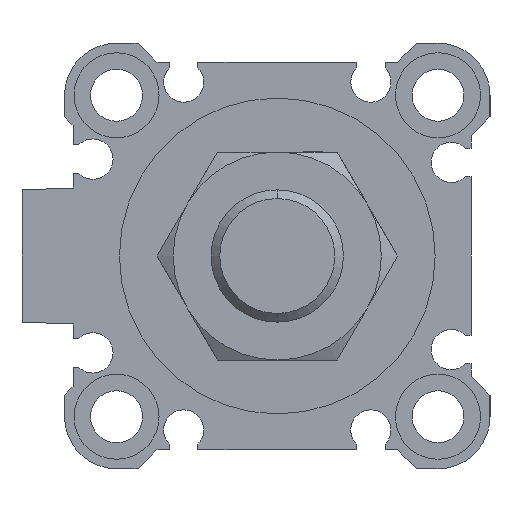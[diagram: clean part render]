
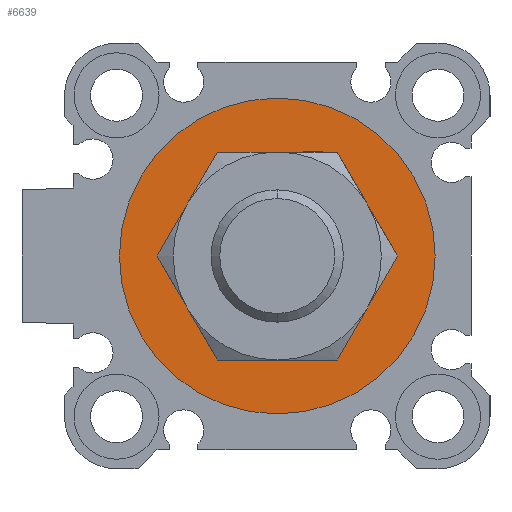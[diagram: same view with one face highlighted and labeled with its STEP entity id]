
A CAD part, left-side view. The second image highlights one B-rep face of the part: STEP entity #6639.
In plain terms, the highlighted planar face has unit normal (-1, 0, 0).
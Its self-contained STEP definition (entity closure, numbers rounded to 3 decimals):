
#97 = AXIS2_PLACEMENT_3D ( 'NONE', #1548, #5419, #2155 ) ;
#703 = EDGE_LOOP ( 'NONE', ( #6256, #5304 ) ) ;
#888 = DIRECTION ( 'NONE',  ( 1., 0., 0. ) ) ;
#914 = CIRCLE ( 'NONE', #1719, 16.7 ) ;
#1458 = PLANE ( 'NONE',  #5228 ) ;
#1537 = VERTEX_POINT ( 'NONE', #4890 ) ;
#1548 = CARTESIAN_POINT ( 'NONE',  ( 2.1, 0., 0. ) ) ;
#1617 = EDGE_CURVE ( 'NONE', #5056, #5619, #6127, .T. ) ;
#1672 = EDGE_CURVE ( 'NONE', #5619, #5056, #914, .T. ) ;
#1719 = AXIS2_PLACEMENT_3D ( 'NONE', #6038, #5964, #6991 ) ;
#1891 = EDGE_CURVE ( 'NONE', #1537, #3853, #6468, .T. ) ;
#2010 = CIRCLE ( 'NONE', #97, 10.5 ) ;
#2155 = DIRECTION ( 'NONE',  ( 0., 0., -1. ) ) ;
#2248 = CARTESIAN_POINT ( 'NONE',  ( 2.1, 0., 0. ) ) ;
#2354 = ORIENTED_EDGE ( 'NONE', *, *, #1891, .T. ) ;
#2700 = EDGE_LOOP ( 'NONE', ( #6537, #2354 ) ) ;
#2865 = CARTESIAN_POINT ( 'NONE',  ( 2.1, 0., 0. ) ) ;
#3020 = EDGE_CURVE ( 'NONE', #3853, #1537, #2010, .T. ) ;
#3687 = FACE_OUTER_BOUND ( 'NONE', #703, .T. ) ;
#3769 = DIRECTION ( 'NONE',  ( 0., 0., -1. ) ) ;
#3844 = DIRECTION ( 'NONE',  ( 1., 0., 0. ) ) ;
#3853 = VERTEX_POINT ( 'NONE', #6956 ) ;
#3885 = CARTESIAN_POINT ( 'NONE',  ( 2.1, 0., -16.7 ) ) ;
#4122 = CARTESIAN_POINT ( 'NONE',  ( 2.1, 0., 0. ) ) ;
#4200 = AXIS2_PLACEMENT_3D ( 'NONE', #2248, #3844, #3769 ) ;
#4285 = CARTESIAN_POINT ( 'NONE',  ( 2.1, 0., 16.7 ) ) ;
#4522 = DIRECTION ( 'NONE',  ( 1., 0., 0. ) ) ;
#4556 = DIRECTION ( 'NONE',  ( 0., 0., -1. ) ) ;
#4890 = CARTESIAN_POINT ( 'NONE',  ( 2.1, 0., -10.5 ) ) ;
#5056 = VERTEX_POINT ( 'NONE', #3885 ) ;
#5226 = AXIS2_PLACEMENT_3D ( 'NONE', #2865, #4522, #4556 ) ;
#5228 = AXIS2_PLACEMENT_3D ( 'NONE', #4122, #888, #6312 ) ;
#5304 = ORIENTED_EDGE ( 'NONE', *, *, #1617, .F. ) ;
#5419 = DIRECTION ( 'NONE',  ( 1., 0., 0. ) ) ;
#5619 = VERTEX_POINT ( 'NONE', #4285 ) ;
#5887 = FACE_BOUND ( 'NONE', #2700, .T. ) ;
#5964 = DIRECTION ( 'NONE',  ( 1., 0., 0. ) ) ;
#6038 = CARTESIAN_POINT ( 'NONE',  ( 2.1, 0., 0. ) ) ;
#6127 = CIRCLE ( 'NONE', #4200, 16.7 ) ;
#6256 = ORIENTED_EDGE ( 'NONE', *, *, #1672, .F. ) ;
#6312 = DIRECTION ( 'NONE',  ( 0., 1., 0. ) ) ;
#6468 = CIRCLE ( 'NONE', #5226, 10.5 ) ;
#6537 = ORIENTED_EDGE ( 'NONE', *, *, #3020, .T. ) ;
#6639 = ADVANCED_FACE ( 'NONE', ( #3687, #5887 ), #1458, .F. ) ;
#6956 = CARTESIAN_POINT ( 'NONE',  ( 2.1, 0., 10.5 ) ) ;
#6991 = DIRECTION ( 'NONE',  ( 0., 0., -1. ) ) ;
